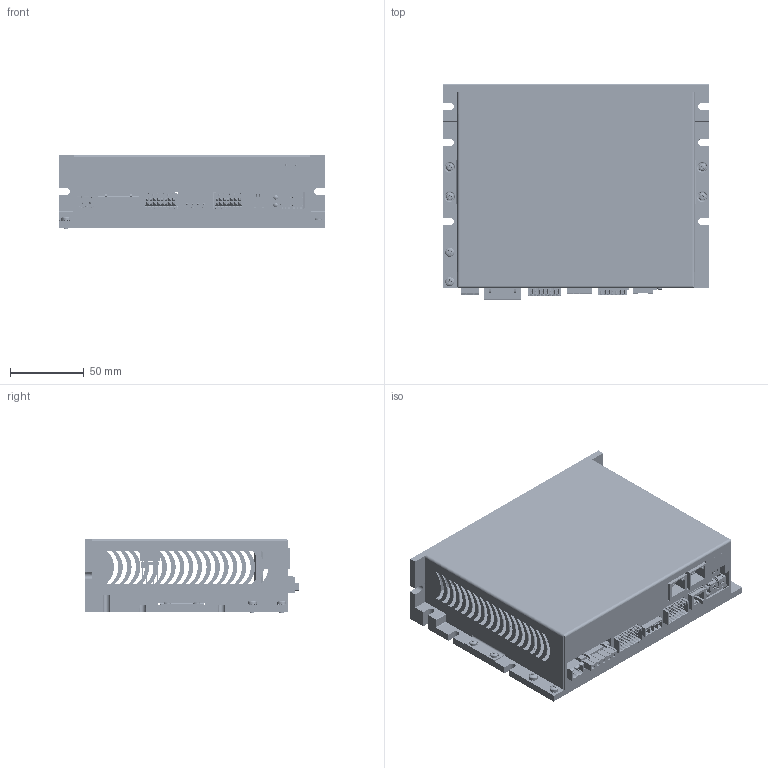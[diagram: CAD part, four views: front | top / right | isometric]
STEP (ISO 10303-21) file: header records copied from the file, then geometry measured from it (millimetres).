
FILE_DESCRIPTION(/* description */ ('Unknown'),/* implementation_level */ '2;1');
FILE_NAME(/* name */ 'AW5A6750H221-20',/* time_stamp */ '2021-12-13T16:25:31+01:00',/* author */ ('Unknown'),/* organization */ ('Unknown'),/* preprocessor_version */ 'ST-DEVELOPER v16.7',/* originating_system */ 'Solid Edge',/* authorisation */ 'Unknown');
FILE_SCHEMA (('AP242_MANAGED_MODEL_BASED_3D_ENGINEERING_MIM_LF { 1 0 10303 442 1 1 4 }','AUTOMOTIVE_DESIGN {1 0 10303 214 3 1 1}'));
Products named in the file (64): SW5A9030; estruso_sw5a9030_isd04_inserti; ESTRUSO_SW5A9030_ISD04; inserto_m2_5x12mm; ad_01121_sw5a9030_isd04; hexdist_MF_M2e5 x 30mm; dentellata_M3; tcc_M2e5x05; ISD04-00_oa_0; Board; Open CASCADE STEP translator 6.8 2.1.1; CN7; 1782378; mc_1.5-4-g-3.81-p14-thr; CN3; dinkle_0156-1514; J405; hw-02-12-x-d-750-100; J404; HW-05-13-F-D-827-118; __BBHW-05-13-F-D-827-118; __PHW-05-13-F-D-827-118; __TBHW-05-13-F-D-827-118; CN2A; 1927878_3D; IC_2_5-5-G-5_08-225340_ASM; IC_2_5-5-G-5_08-217880; CN4; dinkle_0156-1516l; GL400; 5151061f; J400; IMD03DIP-00; DIP100; a6e-4104; SW401; RTE0400V04; SW400; CN6; 955012641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
Assembly tree (82 placements, depth 6):
  SW5A9030
    estruso_sw5a9030_isd04_inserti
      ESTRUSO_SW5A9030_ISD04
      inserto_m2_5x12mm  x3
    ad_01121_sw5a9030_isd04
    hexdist_MF_M2e5 x 30mm  x2
    dentellata_M3  x2
    tcc_M2e5x05  x12
    ISD04-00_oa_0
      Board
        Open CASCADE STEP translator 6.8 2.1.1
      CN7
        1782378
          mc_1.5-4-g-3.81-p14-thr
      CN3
        dinkle_0156-1514
      J405
        hw-02-12-x-d-750-100
      J404
        HW-05-13-F-D-827-118
          __BBHW-05-13-F-D-827-118
          __PHW-05-13-F-D-827-118
          __TBHW-05-13-F-D-827-118
      CN2A
        1927878_3D
          IC_2_5-5-G-5_08-225340_ASM
            IC_2_5-5-G-5_08-217880
      CN4
        dinkle_0156-1516l
      GL400
        5151061f
      J400
        IMD03DIP-00
          Board
          DIP100
            a6e-4104
      SW401
        RTE0400V04
      SW400
        RTE0400V04
      CN6
        955012641
          Open CASCADE STEP translator 6.8 2.503.1.1
          Open CASCADE STEP translator 6.8 2.503.1.2
      CN1
        CA02MHLT5.08B_1757242
          MSTBA_2_5-2-G-5_08-72070_ASM
            MSTBA_2_5-2-G-5_08-69580
    tcc_M3x06  x2
    Scatola SW5A9030 con ISD04
    ETH05-00_oa_1
      Board
        Open CASCADE STEP translator 6.8 1.1.1
      CN15B
        J0011D01BNL
      CN15A
        J0011D01BNL
      LED300
        LED_HSMx-C680
      LED301
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Bounding box: 180.7 x 146.11 x 50.4 mm (x, y, z)
Volume: 279776.4 mm3; surface area: 238606.3 mm2
Topology: 47 solids, 76 shells, 8146 faces, 21855 edges, 14116 vertices
Faces by surface type: plane 6004, cylinder 1617, bspline 230, cone 131, sphere 84, torus 80
Full cylindrical faces by diameter (mm): 0.434 x1, 0.457 x2, 0.762 x48, 0.8 x12, 0.889 x16, 0.9 x20, 1 x25, 1.016 x56, 1.2 x8, 1.25 x4, 1.27 x2, 1.397 x1, 1.4 x51, 1.5 x6, 1.524 x6, 1.53 x1, 1.55 x1, 1.6 x12, 1.778 x4, 2.013 x9, 2.032 x6, 2.05 x3, 2.459 x2, 2.5 x21, 2.7 x10, 2.75 x2, 2.8 x5, 3 x6, 3.048 x2, 3.2 x8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
Entity records: 246713 total; most frequent: CARTESIAN_POINT 44269, ORIENTED_EDGE 36294, DIRECTION 34241, EDGE_CURVE 18183, LINE 14313, VECTOR 14313, VERTEX_POINT 12015, AXIS2_PLACEMENT_3D 9964
